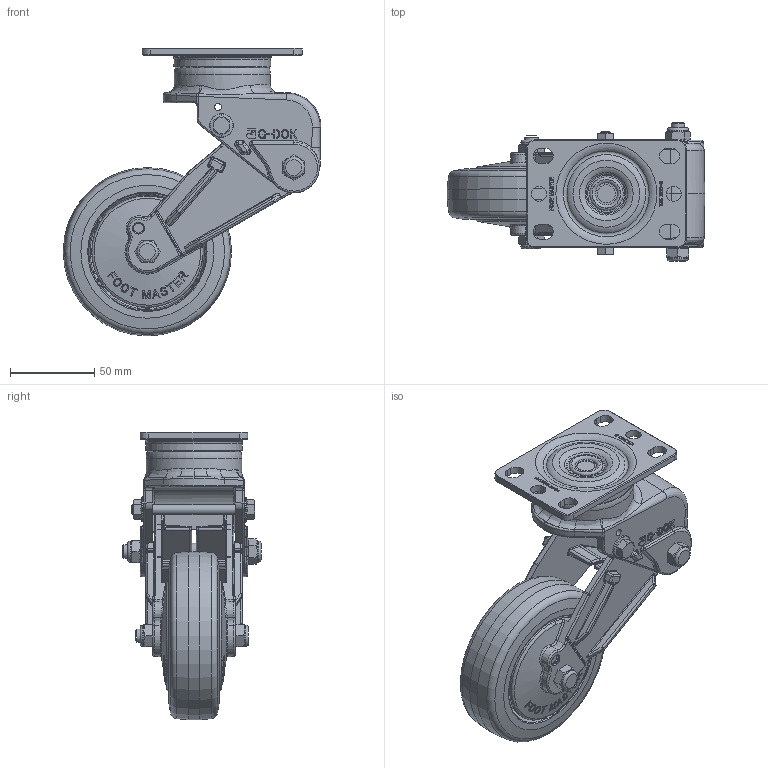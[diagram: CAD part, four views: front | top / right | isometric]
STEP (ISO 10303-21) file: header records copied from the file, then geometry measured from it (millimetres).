
FILE_DESCRIPTION(/* description */ (''),/* implementation_level */ '2;1');
FILE_NAME(/* name */ 'Z:\1.기술연구소\2.연구개발 진행중\25.충격흡수식_BBB\JYH\GDS-100-BB\2020년도\3.도면\1.3D\STEP-FILE\홈페이지용 3D_전달용\GDSB-100-ASF-LUD_PUS.stp',/* time_stamp */ '2021-10-08T20:04:16+09:00',/* author */ ('admin'),/* organization */ (''),/* preprocessor_version */ 'ST-DEVELOPER v18.1',/* originating_system */ 'Autodesk Inventor 2021',/* authorisation */ '');
FILE_SCHEMA (('AUTOMOTIVE_DESIGN { 1 0 10303 214 3 1 1 }'));
Length unit declared in the file: millimetre
Products named in the file (1): GDSB-100-ASF-LUD_PUS
Bounding box: 153.02 x 82 x 171 mm (x, y, z)
Volume: 366164.2 mm3; surface area: 117314.6 mm2
Topology: 1 solids, 2 shells, 2628 faces, 6572 edges, 4002 vertices
Faces by surface type: bspline 968, plane 888, cylinder 378, cone 191, torus 175, sphere 28
Full cylindrical faces by diameter (mm): 4.2 x2, 6 x2, 6.2 x2, 7.4 x1, 7.95 x5, 8.2 x2, 9 x2, 9.95 x1, 10.2 x4, 10.7 x1, 11.6 x2, 12.5 x4, 14 x2, 20 x1, 53.665 x2, 57 x1, 100 x1
Entity records: 103052 total; most frequent: CARTESIAN_POINT 43047, ORIENTED_EDGE 13002, DIRECTION 10384, EDGE_CURVE 6501, VERTEX_POINT 4002, AXIS2_PLACEMENT_3D 3945, EDGE_LOOP 2782, FACE_OUTER_BOUND 2628
